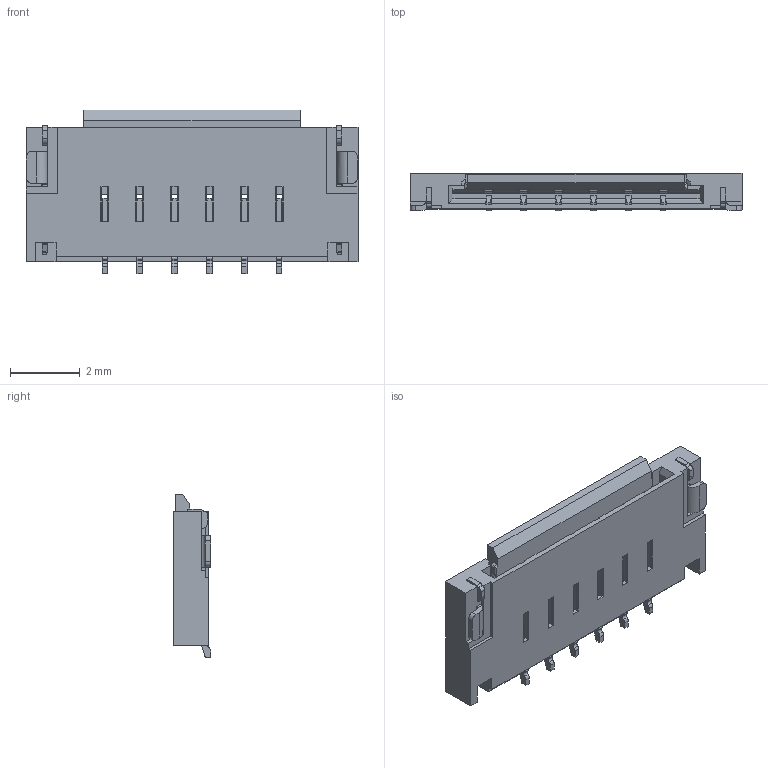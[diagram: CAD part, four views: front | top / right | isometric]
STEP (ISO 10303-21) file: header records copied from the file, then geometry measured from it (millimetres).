
FILE_DESCRIPTION((''),'2;1');
FILE_NAME('S-51637-006XX-XXX-REV-1','2014-05-26T',('junwei'),(''),'PRO/ENGINEER BY PARAMETRIC TECHNOLOGY CORPORATION, 2010280','PRO/ENGINEER BY PARAMETRIC TECHNOLOGY CORPORATION, 2010280','');
FILE_SCHEMA(('CONFIG_CONTROL_DESIGN', 'GEOMETRIC_VALIDATION_PROPERTIES_MIM'));
Length unit declared in the file: millimetre
Products named in the file (1): S-51637-006XX-XXX-REV-1
Bounding box: 9.5 x 1.07 x 4.69 mm (x, y, z)
Volume: 25.9 mm3; surface area: 197.6 mm2
Topology: 1 solids, 1 shells, 927 faces, 2836 edges, 1894 vertices
Faces by surface type: plane 714, cylinder 207, torus 2, cone 2, bspline 2
Entity records: 38212 total; most frequent: CARTESIAN_POINT 5849, ORIENTED_EDGE 5608, DIRECTION 5026, EDGE_CURVE 2804, VECTOR 2354, LINE 2354, VERTEX_POINT 1862, AXIS2_PLACEMENT_3D 1336
